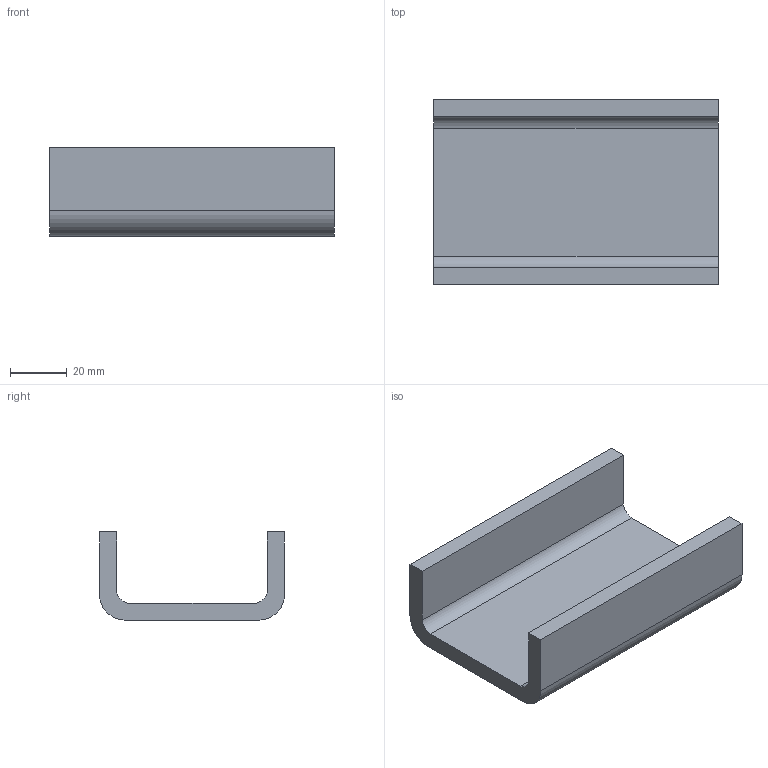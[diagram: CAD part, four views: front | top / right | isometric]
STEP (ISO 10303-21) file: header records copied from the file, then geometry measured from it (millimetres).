
FILE_DESCRIPTION( ( '' ), '1' );
FILE_NAME( '//expscmdclustefs.cadenas.external/client_exchange/iodir/jobs/output/wkb47117756_no0/STEP/ALFATEC_UP_050_0780__100mm__2_03.stp', '2012-07-19T07:33:01', ( '' ), ( '' ), ' ', ' ', ' ' );
FILE_SCHEMA( ( 'CONFIG_CONTROL_DESIGN' ) );
Length unit declared in the file: millimetre
Products named in the file (1): 1
Bounding box: 100 x 65 x 31 mm (x, y, z)
Volume: 66449.5 mm3; surface area: 24359 mm2
Topology: 1 solids, 1 shells, 14 faces, 36 edges, 24 vertices
Faces by surface type: plane 10, cylinder 4
Entity records: 472 total; most frequent: CARTESIAN_POINT 75, DIRECTION 74, ORIENTED_EDGE 72, EDGE_CURVE 36, LINE 28, VECTOR 28, VERTEX_POINT 24, AXIS2_PLACEMENT_3D 23
